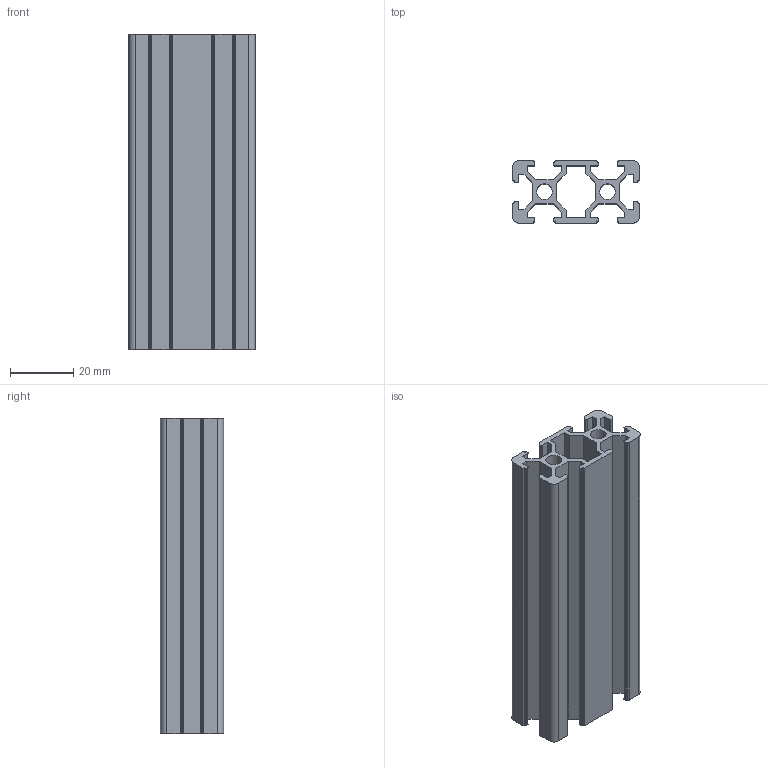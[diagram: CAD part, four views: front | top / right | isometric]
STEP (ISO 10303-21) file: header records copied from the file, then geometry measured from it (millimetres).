
FILE_DESCRIPTION(('STEP AP214'), '1');
FILE_NAME('Ïðîôèëü àëþìèíèåâûé HXB2040E-6', '', ('UNSPECIFIED'), ('UNSPECIFIED'), 'ASCON STEP Converter 1.6', 'ASCON Math Kernel', '');
FILE_SCHEMA(('AUTOMOTIVE_DESIGN { 1 0 10303 214 3 1 1}'));
Length unit declared in the file: millimetre
Bounding box: 40 x 20 x 100 mm (x, y, z)
Volume: 27997.7 mm3; surface area: 31499 mm2
Topology: 1 solids, 1 shells, 132 faces, 390 edges, 260 vertices
Faces by surface type: plane 78, cylinder 54
Full cylindrical faces by diameter (mm): 5 x2
Entity records: 5524 total; most frequent: CARTESIAN_POINT 781, ORIENTED_EDGE 776, DIRECTION 762, EDGE_CURVE 388, LINE 280, VECTOR 280, VERTEX_POINT 260, AXIS2_PLACEMENT_3D 241
